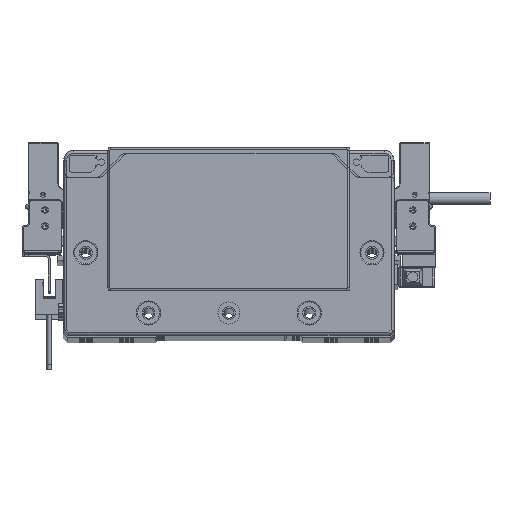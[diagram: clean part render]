
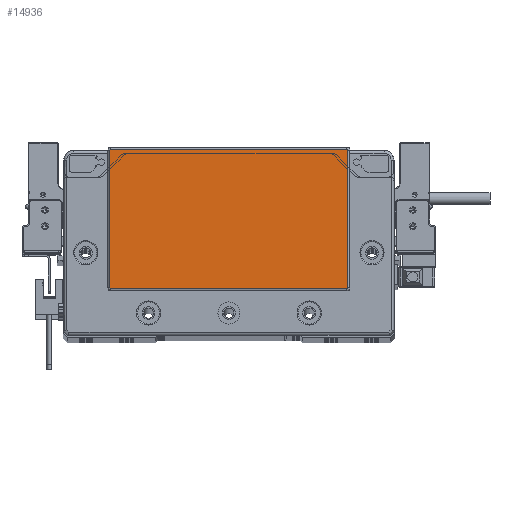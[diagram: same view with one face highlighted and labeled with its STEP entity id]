
A CAD part, top view. The second image highlights one B-rep face of the part: STEP entity #14936.
In plain terms, the highlighted planar face has unit normal (0, 0, 1) as drawn and (0, 0, -1) by its records, which use the part's own axes.
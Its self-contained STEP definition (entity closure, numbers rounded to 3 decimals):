
#2095 = CIRCLE ( 'NONE', #31158, 0.5 ) ;
#2303 = VERTEX_POINT ( 'NONE', #28424 ) ;
#2697 = EDGE_CURVE ( 'NONE', #38997, #57426, #76719, .T. ) ;
#6523 = CARTESIAN_POINT ( 'NONE',  ( -58.75, -23.8, -2. ) ) ;
#7631 = CARTESIAN_POINT ( 'NONE',  ( 58.75, 45.8, -2. ) ) ;
#14936 = ADVANCED_FACE ( 'NONE', ( #59571 ), #93304, .T. ) ;
#16774 = EDGE_CURVE ( 'NONE', #27449, #63923, #60981, .T. ) ;
#19169 = AXIS2_PLACEMENT_3D ( 'NONE', #26365, #19924, #28475 ) ;
#19924 = DIRECTION ( 'NONE',  ( 0., 0., -1. ) ) ;
#20816 = DIRECTION ( 'NONE',  ( 0., 0., -1. ) ) ;
#21780 = CARTESIAN_POINT ( 'NONE',  ( 59.25, -23.3, -2. ) ) ;
#21947 = CARTESIAN_POINT ( 'NONE',  ( 58.75, -23.8, -2. ) ) ;
#22101 = CARTESIAN_POINT ( 'NONE',  ( -58.75, 45.3, -2. ) ) ;
#23488 = EDGE_CURVE ( 'NONE', #102827, #74828, #2095, .T. ) ;
#23770 = CARTESIAN_POINT ( 'NONE',  ( -59.25, 45.3, -2. ) ) ;
#24304 = DIRECTION ( 'NONE',  ( 0., 1., 0. ) ) ;
#24723 = CARTESIAN_POINT ( 'NONE',  ( 59.25, -23.3, -2. ) ) ;
#26365 = CARTESIAN_POINT ( 'NONE',  ( 0., 0., -2. ) ) ;
#26549 = CARTESIAN_POINT ( 'NONE',  ( 59.25, 45.3, -2. ) ) ;
#26695 = EDGE_CURVE ( 'NONE', #2303, #38997, #97064, .T. ) ;
#26721 = AXIS2_PLACEMENT_3D ( 'NONE', #66300, #40081, #31529 ) ;
#27430 = EDGE_CURVE ( 'NONE', #63923, #102827, #55800, .T. ) ;
#27449 = VERTEX_POINT ( 'NONE', #24723 ) ;
#28424 = CARTESIAN_POINT ( 'NONE',  ( -58.75, 45.8, -2. ) ) ;
#28475 = DIRECTION ( 'NONE',  ( -1., 0., 0. ) ) ;
#29141 = CARTESIAN_POINT ( 'NONE',  ( -58.75, -23.3, -2. ) ) ;
#30105 = DIRECTION ( 'NONE',  ( 0., 0., -1. ) ) ;
#30890 = EDGE_CURVE ( 'NONE', #74828, #69428, #32849, .T. ) ;
#31158 = AXIS2_PLACEMENT_3D ( 'NONE', #29141, #101977, #87500 ) ;
#31529 = DIRECTION ( 'NONE',  ( -1., 0., 0. ) ) ;
#32213 = DIRECTION ( 'NONE',  ( -1., 0., 0. ) ) ;
#32849 = LINE ( 'NONE', #23770, #39534 ) ;
#33521 = CARTESIAN_POINT ( 'NONE',  ( -59.25, 45.3, -2. ) ) ;
#38327 = VECTOR ( 'NONE', #48364, 1000. ) ;
#38997 = VERTEX_POINT ( 'NONE', #102519 ) ;
#39534 = VECTOR ( 'NONE', #24304, 1000. ) ;
#39670 = AXIS2_PLACEMENT_3D ( 'NONE', #22101, #30105, #56333 ) ;
#40081 = DIRECTION ( 'NONE',  ( 0., 0., -1. ) ) ;
#41377 = CIRCLE ( 'NONE', #39670, 0.5 ) ;
#46383 = ORIENTED_EDGE ( 'NONE', *, *, #66265, .T. ) ;
#48364 = DIRECTION ( 'NONE',  ( 1., 0., 0. ) ) ;
#51290 = ORIENTED_EDGE ( 'NONE', *, *, #16774, .T. ) ;
#52596 = ORIENTED_EDGE ( 'NONE', *, *, #26695, .T. ) ;
#54424 = LINE ( 'NONE', #21780, #56417 ) ;
#55800 = LINE ( 'NONE', #6523, #74883 ) ;
#56333 = DIRECTION ( 'NONE',  ( -1., 0., 0. ) ) ;
#56417 = VECTOR ( 'NONE', #96209, 1000. ) ;
#57426 = VERTEX_POINT ( 'NONE', #26549 ) ;
#59387 = DIRECTION ( 'NONE',  ( -1., 0., 0. ) ) ;
#59571 = FACE_OUTER_BOUND ( 'NONE', #71294, .T. ) ;
#60468 = CARTESIAN_POINT ( 'NONE',  ( -58.75, -23.8, -2. ) ) ;
#60981 = CIRCLE ( 'NONE', #26721, 0.5 ) ;
#61494 = CARTESIAN_POINT ( 'NONE',  ( 58.75, 45.3, -2. ) ) ;
#63923 = VERTEX_POINT ( 'NONE', #21947 ) ;
#66265 = EDGE_CURVE ( 'NONE', #69428, #2303, #41377, .T. ) ;
#66300 = CARTESIAN_POINT ( 'NONE',  ( 58.75, -23.3, -2. ) ) ;
#66484 = AXIS2_PLACEMENT_3D ( 'NONE', #61494, #20816, #59387 ) ;
#69428 = VERTEX_POINT ( 'NONE', #33521 ) ;
#70484 = ORIENTED_EDGE ( 'NONE', *, *, #75569, .T. ) ;
#71294 = EDGE_LOOP ( 'NONE', ( #70484, #51290, #76064, #97471, #91753, #46383, #52596, #82117 ) ) ;
#74828 = VERTEX_POINT ( 'NONE', #78666 ) ;
#74883 = VECTOR ( 'NONE', #32213, 1000. ) ;
#75569 = EDGE_CURVE ( 'NONE', #57426, #27449, #54424, .T. ) ;
#76064 = ORIENTED_EDGE ( 'NONE', *, *, #27430, .T. ) ;
#76719 = CIRCLE ( 'NONE', #66484, 0.5 ) ;
#78666 = CARTESIAN_POINT ( 'NONE',  ( -59.25, -23.3, -2. ) ) ;
#82117 = ORIENTED_EDGE ( 'NONE', *, *, #2697, .T. ) ;
#87500 = DIRECTION ( 'NONE',  ( -1., 0., 0. ) ) ;
#91753 = ORIENTED_EDGE ( 'NONE', *, *, #30890, .T. ) ;
#93304 = PLANE ( 'NONE',  #19169 ) ;
#96209 = DIRECTION ( 'NONE',  ( 0., -1., 0. ) ) ;
#97064 = LINE ( 'NONE', #7631, #38327 ) ;
#97471 = ORIENTED_EDGE ( 'NONE', *, *, #23488, .T. ) ;
#101977 = DIRECTION ( 'NONE',  ( 0., 0., -1. ) ) ;
#102519 = CARTESIAN_POINT ( 'NONE',  ( 58.75, 45.8, -2. ) ) ;
#102827 = VERTEX_POINT ( 'NONE', #60468 ) ;
